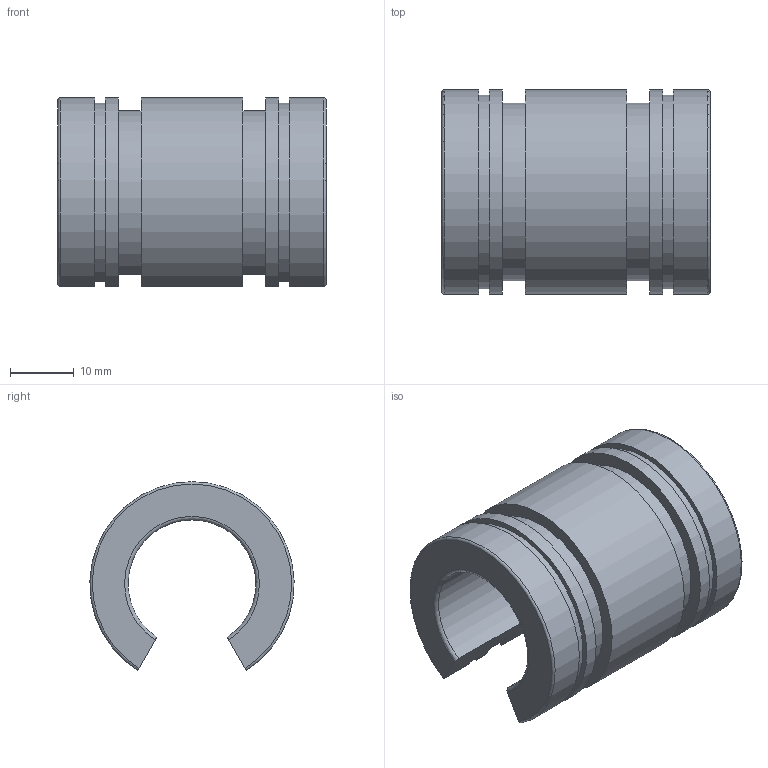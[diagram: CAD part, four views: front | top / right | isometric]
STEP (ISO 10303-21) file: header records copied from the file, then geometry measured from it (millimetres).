
FILE_DESCRIPTION(('STEP AP203'),'1');
FILE_NAME('//192.168.1.1/share/s-4 技術開発/s-4-4_CAD/s-4-4-3_見直し済み/PBC LINEAR修正済み/FJN/FJN_TOP/FJN20.step','2022-03-24T07:43:47',(' '),(' '),'Spatial InterOp 3D',' ',' ');
FILE_SCHEMA(('CONFIG_CONTROL_DESIGN'));
Length unit declared in the file: millimetre
Products named in the file (1): 1
Bounding box: 42 x 31.99 x 29.55 mm (x, y, z)
Volume: 15484.3 mm3; surface area: 7659.5 mm2
Topology: 1 solids, 1 shells, 26 faces, 72 edges, 48 vertices
Faces by surface type: plane 12, cylinder 10, torus 4
Entity records: 908 total; most frequent: CARTESIAN_POINT 187, ORIENTED_EDGE 144, DIRECTION 142, EDGE_CURVE 72, AXIS2_PLACEMENT_3D 51, VERTEX_POINT 48, LINE 40, VECTOR 40
